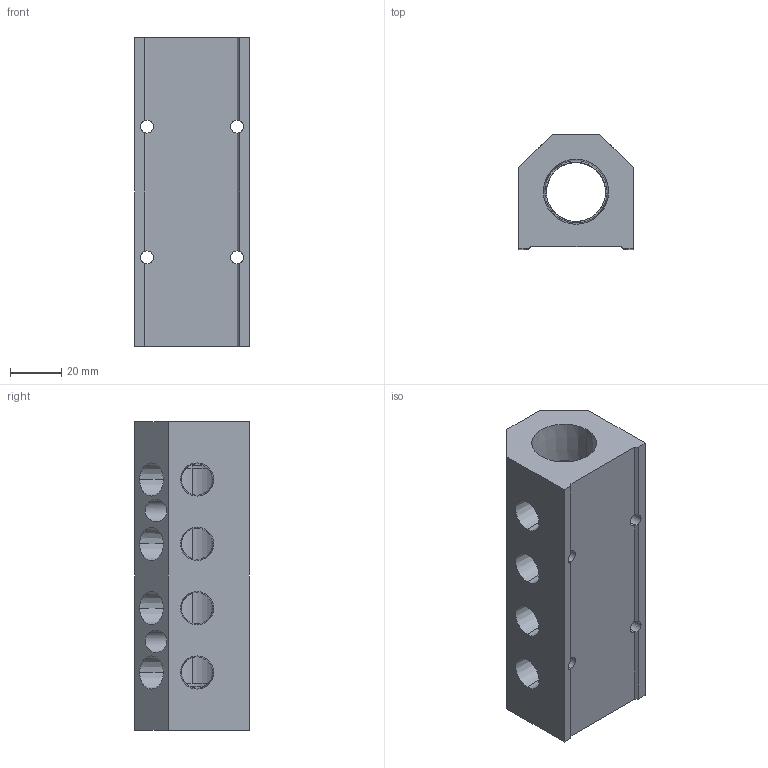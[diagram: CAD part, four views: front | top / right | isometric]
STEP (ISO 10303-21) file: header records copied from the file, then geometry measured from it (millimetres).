
FILE_DESCRIPTION (( 'STEP AP214' ), '1' );
FILE_NAME ('ALM4AB-N4N12-120B.step', '2022-02-06T14:10:23', ( '' ), ( '' ), 'SwSTEP 2.0', 'SolidWorks 2020', '' );
FILE_SCHEMA (( 'AUTOMOTIVE_DESIGN' ));
Length unit declared in the file: millimetre
Products named in the file (1): ALM4AB-N4N12-120B
Bounding box: 44.5 x 44.5 x 120 mm (x, y, z)
Volume: 146233.5 mm3; surface area: 34929.5 mm2
Topology: 1 solids, 1 shells, 320 faces, 872 edges, 578 vertices
Faces by surface type: plane 223, bspline 47, cone 25, cylinder 25
Entity records: 14080 total; most frequent: CARTESIAN_POINT 6116, ORIENTED_EDGE 1744, DIRECTION 1308, EDGE_CURVE 872, LINE 628, VECTOR 628, VERTEX_POINT 578, EDGE_LOOP 370
